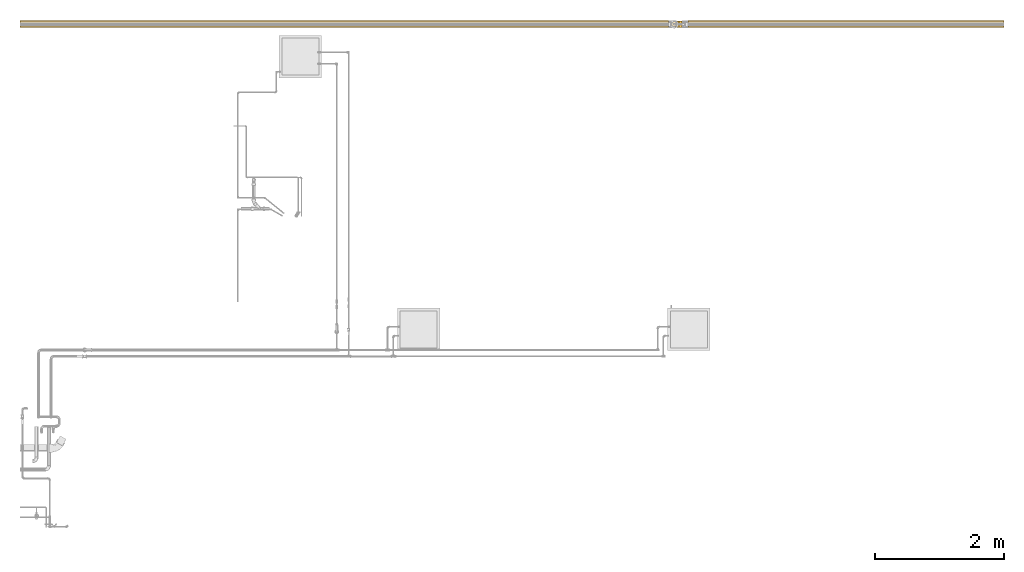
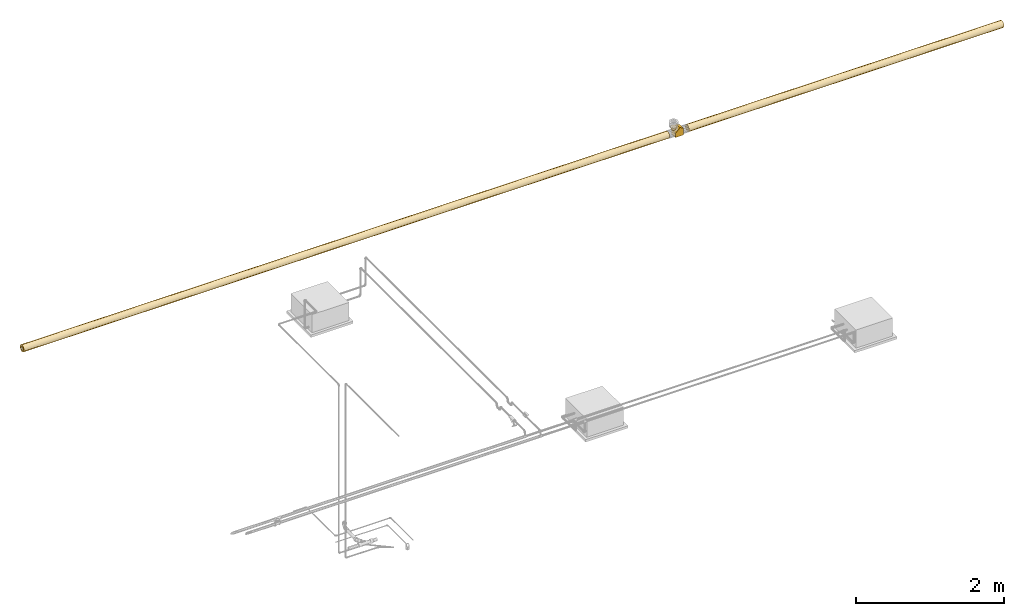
# One storey, part 2 of 35: 4 coverings.
"""IFC2X3 building model written with IfcOpenShell, lengths in millimetres."""

from ifc_helpers import new_model, entity, si_unit, converted_unit, derived_unit, direction, frame, origin_with_axes, place, context, subcontext, project, spatial, open_shell, faceted_brep, surface_model, source, transform, mapped, element, save


model = new_model("IFC2X3")

# Units and contexts
model_context = context("Model", 3, precision=0.01, world=frame((0.0, 4.29681676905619e-09, 0.0)), true_north=direction((4.01073788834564e-13, 1.0)))
plan_context = context("Plan", 3, precision=0.01, world=frame((0.0, 4.29681676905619e-09, 0.0)), true_north=direction((4.01073788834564e-13, 1.0)))
body_context = subcontext(model_context, "Body", "Model", "MODEL_VIEW")
ifc_project = project(units=[converted_unit("PLANEANGLEUNIT", "DEGREE", entity("IfcPositiveLengthMeasure", 0.0174532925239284), si_unit("PLANEANGLEUNIT", "RADIAN"), dimensions=[0, 0, 0, 0, 0, 0, 0]), si_unit("AREAUNIT", "SQUARE_METRE"), si_unit("LENGTHUNIT", "METRE", prefix="MILLI"), si_unit("MASSUNIT", "GRAM", prefix="KILO"), si_unit("POWERUNIT", "WATT"), si_unit("PRESSUREUNIT", "PASCAL"), si_unit("FORCEUNIT", "NEWTON", prefix="KILO"), si_unit("ELECTRICVOLTAGEUNIT", "VOLT"), si_unit("ELECTRICCURRENTUNIT", "AMPERE"), si_unit("THERMODYNAMICTEMPERATUREUNIT", "DEGREE_CELSIUS"), si_unit("TIMEUNIT", "SECOND"), si_unit("VOLUMEUNIT", "CUBIC_METRE"), derived_unit("LINEARVELOCITYUNIT", [(si_unit("LENGTHUNIT", "METRE"), 1), (si_unit("TIMEUNIT", "SECOND"), -1)]), derived_unit("VOLUMETRICFLOWRATEUNIT", [(si_unit("VOLUMEUNIT", "CUBIC_METRE"), 1), (si_unit("TIMEUNIT", "SECOND"), -1)]), derived_unit("THERMALTRANSMITTANCEUNIT", [(si_unit("POWERUNIT", "WATT"), 1), (si_unit("THERMODYNAMICTEMPERATUREUNIT", "KELVIN"), -1), (si_unit("AREAUNIT", "SQUARE_METRE"), -1)]), derived_unit("SOUNDPRESSUREUNIT", [(si_unit("PRESSUREUNIT", "PASCAL"), 1)])], contexts=[model_context, plan_context])

# Site, building, storey
site_placement = place(None, frame((0.0, -4.29681676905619e-09, 0.0), z_axis=(0.0, 0.0, 1.0), x_axis=(1.0, 0.0, 0.0)))
site = spatial("IfcSite", under=ifc_project, at=site_placement, Name="ENGM", CompositionType="ELEMENT")
building_placement = place(site_placement, frame((0.0, 4.29681676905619e-09, 0.0), z_axis=(0.0, 0.0, 1.0), x_axis=(1.0, 0.0, 0.0)))
building = spatial("IfcBuilding", under=site, at=building_placement, Name="TH", CompositionType="ELEMENT")
storey_placement = place(building_placement, frame((0.0, 0.0, 210200.0), z_axis=(0.0, 0.0, 1.0), x_axis=(1.0, 0.0, 0.0)))
storey = spatial("IfcBuildingStorey", under=building, at=storey_placement, Name="Nivå F - 0,7 m", CompositionType="ELEMENT", Elevation=210200.0)

# Coverings
shared_shape_1 = source(origin_with_axes(), body_context, "Body", "SurfaceModel", [
    surface_model("IfcShellBasedSurfaceModel", [(-13.71736, -88.38671, 51.0), (-13.71736, -88.38671, -51.0), (37.37437, -58.88945, -51.0), (37.37437, -58.88945, 51.0), (-88.42641, -13.67767, 51.0), (-88.42641, -13.67767, -51.0), (-88.42641, 51.0, -51.0), (-88.42641, 51.0, 51.0), (37.37437, 51.0, -51.0), (37.37437, 51.0, 51.0)], [open_shell([[[0, 1, 2]], [[2, 3, 0]], [[4, 5, 0]], [[1, 0, 5]], [[6, 5, 4]], [[4, 7, 6]], [[2, 1, 5]], [[5, 6, 8]], [[5, 8, 2]], [[0, 3, 4]], [[4, 9, 7]], [[9, 4, 3]], [[9, 3, 8]], [[2, 8, 3]], [[9, 8, 6]], [[6, 7, 9]]])]),
])
covering_1_placement = place(storey_placement, frame((905369.3147, 486361.4, 3085.00002000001), z_axis=(0.0, 1.0, 0.0), x_axis=(1.0, 0.0, 0.0)))
element("IfcCovering", 1, at=covering_1_placement, inside=storey, Name="BI20T - Cellegummi 13 mm kalde rør", PredefinedType="INSULATION", context=body_context, shape_type="MappedRepresentation", body=[
    mapped(shared_shape_1, transform((0.0, 0.0, 0.0), scale=1.0)),
])
shared_shape_2 = source(origin_with_axes(), body_context, "Body", "SurfaceModel", [
    surface_model("IfcShellBasedSurfaceModel", [(-14.33856, 34.84109, -22.64798), (-3.73357, 24.23609, -36.48423), (-9.64633, 30.14885, -30.50281), (3.03749, 17.46504, -40.22652), (22.9793, -2.47678, -37.3931), (33.19048, -12.68796, -25.88116), (28.54325, -8.04073, -32.45082), (-14.49747, 28.14035, -30.50198), (-14.49747, 34.77526, -22.64798), (-14.46432, 34.78186, -22.64798), (-9.33336, 1.02721, -41.5), (-14.49747, 0.0, -41.5), (-14.49747, 10.20222, -40.22642), (-13.22987, 30.45612, -28.37627), (-14.41147, 34.79237, -22.64798), (-12.89338, 25.57403, -32.7892), (-9.72662, 15.68713, -38.65283), (-14.49747, 19.77826, -36.48384), (-7.97404, 24.73896, -34.64887), (-14.36667, 34.8223, -22.64798), (-11.82183, 30.25391, -29.13674), (-6.95673, 7.96936, -40.91607), (-4.6842, 17.69479, -38.65305), (-10.74023, 24.81627, -33.75287), (10.25126, 10.25126, -41.5), (5.87334, 7.32603, -41.5), (-1.10355, 2.66422, -41.5), (-2.08252, 10.45793, -40.81731), (-14.49747, -40.08592, -10.74099), (0.14017, -38.58839, 0.0), (-14.49747, -41.5, 0.0), (4.31246, -26.52859, -29.35029), (-3.199, -22.40889, -34.19829), (7.71892, -17.57172, -35.14288), (-14.49747, -29.34493, -29.34493), (-1.14182, -32.88902, -23.52181), (18.78277, -20.06338, -29.35053), (-1.73312, -11.27783, -39.40935), (10.69373, -6.67948, -39.17315), (5.28207, -36.72744, -13.02003), (12.80245, -29.60362, -22.08583), (-14.49747, -35.94006, -20.75), (23.86555, -28.47712, -13.71224), (-14.49747, -20.75, -35.94006), (-14.49747, -10.74099, -40.08592), (-7.80051, 1.33211, -41.5), (18.14808, -11.81476, -35.14288), (14.77781, -35.67679, 0.0), (4.44593, 6.37226, -41.5), (16.7774, 3.72513, -40.46071), (25.61927, -22.52878, -22.08583), (26.90739, -27.57205, 0.0), (16.78439, 3.71814, 40.45845), (10.25126, 10.25126, 41.5), (4.44593, 6.37226, 41.5), (3.94387, -12.42183, 38.341), (-3.70515, -6.42629, 40.75867), (-6.05104, -14.40129, 38.6483), (5.84721, -3.2656, 40.6538), (-2.50022, -24.05732, 32.92416), (-14.49747, -29.34493, 29.34493), (-0.98345, -31.56623, 25.2636), (-14.49747, -20.75, 35.94006), (10.60404, -24.25288, 29.33934), (7.09378, -19.35447, 34.215), (-7.80051, 1.33211, 41.5), (-14.49747, -10.74099, 40.08592), (12.00006, -7.65858, 38.60899), (-14.49747, -35.94006, 20.75), (21.0178, -31.79942, 8.33777), (12.0841, -33.35439, 15.88136), (24.32911, -27.53874, 15.21287), (15.78155, -13.39394, 35.13497), (28.552, -8.04948, 32.44096), (22.98818, -2.48565, 37.38706), (-1.10355, 2.66422, 41.5), (10.87965, -29.92264, 22.75374), (22.71545, -24.45773, 22.07324), (22.33607, -17.76628, 29.33934), (-14.49747, 0.0, 41.5), (-2.08549, -37.59487, 15.11815), (-14.49747, -40.08592, 10.74099), (-14.49747, 10.20222, 40.22642), (-9.33336, 1.02721, 41.5), (-14.46432, 34.78186, 22.64798), (-14.49747, 34.77526, 22.64798), (-14.49747, 28.14035, 30.50198), (-7.04127, 8.2724, 40.86148), (-10.90615, 13.89671, 39.21061), (-11.89429, 24.46204, 33.75287), (-14.49747, 19.77826, 36.48384), (-4.60928, 19.44634, 38.04879), (3.03636, 17.46617, 40.22611), (-3.73458, 24.23711, 36.48345), (5.87334, 7.32603, 41.5), (-1.37939, 11.731, 40.66397), (-13.2883, 30.66556, 28.14243), (-9.14332, 25.55821, 33.75251), (-7.6116, 16.33633, 38.65283), (-9.64718, 30.14971, 30.5017), (-14.33856, 34.84109, 22.64798), (-14.36667, 34.8223, 22.64798), (-14.41147, 34.79237, 22.64798), (-12.29111, 30.63843, 28.55714), (33.19747, -12.69493, 25.86878), (36.69218, -16.18964, 18.00017), (38.86131, -18.35877, 9.22935), (38.85971, -18.35717, -9.23923), (39.59619, -19.09367, 0.0), (36.68791, -16.18537, -18.01272), (4.60161, -38.31167, 7.80901)], [open_shell([[[0, 1, 2]], [[1, 0, 3]], [[4, 5, 6]], [[7, 8, 9]], [[10, 11, 12]], [[9, 13, 7]], [[9, 14, 13]], [[15, 16, 17]], [[18, 2, 1]], [[19, 20, 14]], [[21, 12, 16]], [[7, 13, 15]], [[19, 2, 20]], [[18, 22, 23]], [[3, 24, 25]], [[23, 22, 16]], [[17, 16, 12]], [[26, 21, 27]], [[18, 23, 20]], [[3, 25, 27]], [[19, 0, 2]], [[21, 16, 27]], [[20, 23, 13]], [[10, 21, 26]], [[1, 3, 22]], [[2, 18, 20]], [[1, 22, 18]], [[20, 13, 14]], [[13, 23, 15]], [[16, 15, 23]], [[17, 7, 15]], [[12, 21, 10]], [[27, 16, 22]], [[3, 27, 22]], [[25, 26, 27]], [[28, 29, 30]], [[31, 32, 33]], [[34, 31, 35]], [[31, 33, 36]], [[37, 26, 38]], [[29, 28, 39]], [[31, 36, 40]], [[41, 35, 39]], [[40, 42, 39]], [[43, 44, 37]], [[37, 33, 32]], [[44, 45, 37]], [[41, 39, 28]], [[4, 6, 46]], [[4, 46, 38]], [[39, 47, 29]], [[38, 48, 49]], [[36, 46, 6]], [[6, 5, 36]], [[50, 36, 5]], [[37, 38, 33]], [[51, 47, 42]], [[46, 36, 33]], [[42, 40, 50]], [[48, 24, 49]], [[4, 38, 49]], [[47, 39, 42]], [[48, 38, 26]], [[38, 46, 33]], [[36, 50, 40]], [[35, 31, 40]], [[32, 34, 43]], [[39, 35, 40]], [[34, 35, 41]], [[34, 32, 31]], [[37, 32, 43]], [[45, 44, 11]], [[45, 26, 37]], [[52, 53, 54]], [[55, 56, 57]], [[52, 54, 58]], [[59, 60, 61]], [[60, 59, 62]], [[63, 64, 59]], [[65, 66, 56]], [[55, 67, 58]], [[68, 61, 60]], [[47, 51, 69]], [[70, 69, 71]], [[72, 73, 74]], [[56, 55, 58]], [[58, 67, 52]], [[58, 75, 56]], [[76, 63, 61]], [[54, 75, 58]], [[55, 72, 67]], [[70, 77, 76]], [[78, 72, 63]], [[57, 56, 66]], [[70, 71, 77]], [[65, 79, 66]], [[72, 74, 67]], [[72, 78, 73]], [[77, 78, 63]], [[64, 63, 72]], [[59, 64, 57]], [[61, 68, 80]], [[59, 61, 63]], [[66, 62, 57]], [[59, 57, 62]], [[80, 70, 76]], [[68, 81, 80]], [[56, 75, 65]], [[29, 81, 30]], [[52, 67, 74]], [[72, 55, 64]], [[57, 64, 55]], [[63, 76, 77]], [[80, 76, 61]], [[82, 79, 83]], [[84, 85, 86]], [[83, 87, 82]], [[83, 75, 87]], [[88, 89, 90]], [[91, 92, 93]], [[94, 95, 75]], [[96, 86, 89]], [[82, 87, 88]], [[94, 92, 95]], [[91, 97, 98]], [[99, 100, 101]], [[98, 97, 89]], [[90, 89, 86]], [[102, 96, 103]], [[91, 98, 95]], [[99, 101, 103]], [[94, 53, 92]], [[96, 89, 103]], [[95, 98, 87]], [[84, 96, 102]], [[93, 99, 97]], [[92, 91, 95]], [[93, 97, 91]], [[95, 87, 75]], [[87, 98, 88]], [[89, 88, 98]], [[90, 82, 88]], [[86, 96, 84]], [[103, 89, 97]], [[99, 103, 97]], [[101, 102, 103]], [[0, 100, 99]], [[0, 93, 92]], [[52, 74, 73]], [[104, 105, 106]], [[107, 108, 51]], [[42, 107, 51]], [[109, 50, 5]], [[109, 107, 42]], [[42, 50, 109]], [[78, 77, 104]], [[81, 29, 110]], [[81, 110, 80]], [[110, 47, 69]], [[51, 106, 69]], [[77, 105, 104]], [[51, 108, 106]], [[73, 78, 104]], [[69, 70, 110]], [[71, 106, 105]], [[80, 110, 70]], [[29, 47, 110]], [[106, 71, 69]], [[105, 77, 71]], [[93, 0, 99]], [[92, 52, 0]], [[3, 49, 24]], [[49, 3, 0]], [[49, 0, 5]], [[52, 92, 53]], [[52, 73, 104]], [[106, 0, 104]], [[106, 5, 0]], [[49, 5, 4]], [[5, 107, 109]], [[106, 107, 5]], [[106, 108, 107]], [[52, 104, 0]]])]),
])
covering_2_placement = place(storey_placement, frame((905283.35126, 486361.4, 3170.96346), z_axis=(0.000477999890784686, 0.999999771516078, 0.000477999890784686), x_axis=(-0.707106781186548, 0.0, 0.707106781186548)))
element("IfcCovering", 2, at=covering_2_placement, inside=storey, Name="BI20T - Cellegummi 13 mm kalde rør", PredefinedType="INSULATION", context=body_context, shape_type="MappedRepresentation", body=[
    mapped(shared_shape_2, transform((0.0, 0.0, 0.0), scale=1.0)),
])
covering_3_placement = place(storey_placement, frame((893206.46324, 486361.4, 3085.00002000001), z_axis=(0.0, 0.0, 1.0), x_axis=(1.0, 0.0, 0.0)))
element("IfcCovering", 3, at=covering_3_placement, inside=storey, Name="BI20T - Cellegummi 13 mm kalde rør", PredefinedType="INSULATION", context=body_context, shape_type="Brep", body=[
    faceted_brep([(1905.4429285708, 28.559424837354, -5.03579715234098), (1905.4429285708, 29.0, 0.0), (11985.8, 29.0, 0.0), (11985.8, 28.559424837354, -5.03579715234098), (1905.4429285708, 27.2510860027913, -9.91858415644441), (11985.8, 27.2510860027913, -9.91858415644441), (1905.4429285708, 25.1147367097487, -14.5), (11985.8, 25.1147367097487, -14.5), (1905.4429285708, 22.2152888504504, -18.6408406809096), (11985.8, 22.2152888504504, -18.6408406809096), (1905.4429285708, 18.6408406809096, -22.2152888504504), (11985.8, 18.6408406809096, -22.2152888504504), (1905.4429285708, 14.5, -25.1147367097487), (11985.8, 14.5, -25.1147367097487), (1905.4429285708, 9.91858415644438, -27.2510860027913), (11985.8, 9.91858415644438, -27.2510860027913), (1905.4429285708, 5.03579715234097, -28.559424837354), (11985.8, 5.03579715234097, -28.559424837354), (1905.4429285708, -5.32721357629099e-15, -29.0), (11985.8, -5.32721357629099e-15, -29.0), (1905.4429285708, -5.03579715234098, -28.559424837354), (11985.8, -5.03579715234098, -28.559424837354), (1905.4429285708, -9.91858415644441, -27.2510860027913), (11985.8, -9.91858415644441, -27.2510860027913), (1905.4429285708, -14.5, -25.1147367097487), (11985.8, -14.5, -25.1147367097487), (1905.4429285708, -18.6408406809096, -22.2152888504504), (11985.8, -18.6408406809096, -22.2152888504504), (1905.4429285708, -22.2152888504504, -18.6408406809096), (11985.8, -22.2152888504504, -18.6408406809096), (1905.4429285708, -25.1147367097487, -14.5), (11985.8, -25.1147367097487, -14.5), (1905.4429285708, -27.2510860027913, -9.91858415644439), (11985.8, -27.2510860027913, -9.91858415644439), (1905.4429285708, -28.559424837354, -5.03579715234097), (11985.8, -28.559424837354, -5.03579715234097), (1905.4429285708, -29.0, 3.55147571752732e-15), (11985.8, -29.0, 3.55147571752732e-15), (1905.4429285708, -28.559424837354, 5.03579715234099), (11985.8, -28.559424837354, 5.03579715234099), (1905.4429285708, -27.2510860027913, 9.9185841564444), (11985.8, -27.2510860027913, 9.9185841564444), (1905.4429285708, -25.1147367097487, 14.5), (11985.8, -25.1147367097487, 14.5), (1905.4429285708, -22.2152888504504, 18.6408406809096), (11985.8, -22.2152888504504, 18.6408406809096), (1905.4429285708, -18.6408406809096, 22.2152888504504), (11985.8, -18.6408406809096, 22.2152888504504), (1905.4429285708, -14.5, 25.1147367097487), (11985.8, -14.5, 25.1147367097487), (1905.4429285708, -9.91858415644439, 27.2510860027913), (11985.8, -9.91858415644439, 27.2510860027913), (1905.4429285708, -5.03579715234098, 28.559424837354), (11985.8, -5.03579715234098, 28.559424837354), (1905.4429285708, 1.77573785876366e-15, 29.0), (11985.8, 1.77573785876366e-15, 29.0), (1905.4429285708, 5.03579715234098, 28.559424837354), (11985.8, 5.03579715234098, 28.559424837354), (1905.4429285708, 9.9185841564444, 27.2510860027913), (11985.8, 9.9185841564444, 27.2510860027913), (1905.4429285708, 14.5, 25.1147367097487), (11985.8, 14.5, 25.1147367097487), (1905.4429285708, 18.6408406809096, 22.2152888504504), (11985.8, 18.6408406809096, 22.2152888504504), (1905.4429285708, 22.2152888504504, 18.6408406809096), (11985.8, 22.2152888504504, 18.6408406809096), (1905.4429285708, 25.1147367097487, 14.5), (11985.8, 25.1147367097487, 14.5), (1905.4429285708, 27.2510860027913, 9.91858415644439), (11985.8, 27.2510860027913, 9.91858415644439), (1905.4429285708, 28.559424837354, 5.03579715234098), (11985.8, 28.559424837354, 5.03579715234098), (1905.4429285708, 54.0, 0.0), (1905.4429285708, 53.1796186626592, -9.37700159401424), (11985.8, 53.1796186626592, -9.37700159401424), (11985.8, 54.0, 0.0), (1905.4429285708, 53.1796186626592, 9.37700159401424), (11985.8, 53.1796186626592, 9.37700159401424), (1905.4429285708, 50.7434015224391, 18.4690877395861), (11985.8, 50.7434015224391, 18.4690877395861), (1905.4429285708, 46.7653718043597, 27.0), (11985.8, 46.7653718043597, 27.0), (1905.4429285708, 41.3663999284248, 34.7105309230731), (11985.8, 41.3663999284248, 34.7105309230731), (1905.4429285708, 34.7105309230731, 41.3663999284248), (11985.8, 34.7105309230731, 41.3663999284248), (1905.4429285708, 27.0, 46.7653718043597), (11985.8, 27.0, 46.7653718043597), (1905.4429285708, 18.4690877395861, 50.7434015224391), (11985.8, 18.4690877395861, 50.7434015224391), (1905.4429285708, 9.37700159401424, 53.1796186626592), (11985.8, 9.37700159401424, 53.1796186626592), (1905.4429285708, 3.30654635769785e-15, 54.0), (11985.8, 3.30654635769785e-15, 54.0), (1905.4429285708, -9.37700159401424, 53.1796186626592), (11985.8, -9.37700159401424, 53.1796186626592), (1905.4429285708, -18.4690877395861, 50.7434015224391), (11985.8, -18.4690877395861, 50.7434015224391), (1905.4429285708, -27.0, 46.7653718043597), (11985.8, -27.0, 46.7653718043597), (1905.4429285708, -34.7105309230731, 41.3663999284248), (11985.8, -34.7105309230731, 41.3663999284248), (1905.4429285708, -41.3663999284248, 34.7105309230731), (11985.8, -41.3663999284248, 34.7105309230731), (1905.4429285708, -46.7653718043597, 27.0), (11985.8, -46.7653718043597, 27.0), (1905.4429285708, -50.7434015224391, 18.4690877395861), (11985.8, -50.7434015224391, 18.4690877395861), (1905.4429285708, -53.1796186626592, 9.37700159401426), (11985.8, -53.1796186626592, 9.37700159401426), (1905.4429285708, -54.0, 6.61309271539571e-15), (11985.8, -54.0, 6.61309271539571e-15), (1905.4429285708, -53.1796186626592, -9.37700159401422), (11985.8, -53.1796186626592, -9.37700159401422), (1905.4429285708, -50.7434015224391, -18.4690877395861), (11985.8, -50.7434015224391, -18.4690877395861), (1905.4429285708, -46.7653718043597, -27.0), (11985.8, -46.7653718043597, -27.0), (1905.4429285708, -41.3663999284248, -34.7105309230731), (11985.8, -41.3663999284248, -34.7105309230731), (1905.4429285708, -34.7105309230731, -41.3663999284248), (11985.8, -34.7105309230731, -41.3663999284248), (1905.4429285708, -27.0, -46.7653718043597), (11985.8, -27.0, -46.7653718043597), (1905.4429285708, -18.4690877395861, -50.743401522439), (11985.8, -18.4690877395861, -50.743401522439), (1905.4429285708, -9.37700159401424, -53.1796186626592), (11985.8, -9.37700159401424, -53.1796186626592), (1905.4429285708, -9.91963907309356e-15, -54.0), (11985.8, -9.91963907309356e-15, -54.0), (1905.4429285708, 9.37700159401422, -53.1796186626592), (11985.8, 9.37700159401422, -53.1796186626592), (1905.4429285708, 18.4690877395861, -50.7434015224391), (11985.8, 18.4690877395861, -50.7434015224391), (1905.4429285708, 27.0, -46.7653718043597), (11985.8, 27.0, -46.7653718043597), (1905.4429285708, 34.7105309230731, -41.3663999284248), (11985.8, 34.7105309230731, -41.3663999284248), (1905.4429285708, 41.3663999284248, -34.7105309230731), (11985.8, 41.3663999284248, -34.7105309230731), (1905.4429285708, 46.7653718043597, -27.0), (11985.8, 46.7653718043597, -27.0), (1905.4429285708, 50.743401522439, -18.4690877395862), (11985.8, 50.743401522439, -18.4690877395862)], [[[0, 1, 2, 3]], [[4, 0, 3, 5]], [[6, 4, 5, 7]], [[8, 6, 7, 9]], [[10, 8, 9, 11]], [[12, 10, 11, 13]], [[14, 12, 13, 15]], [[16, 14, 15, 17]], [[18, 16, 17, 19]], [[20, 18, 19, 21]], [[22, 20, 21, 23]], [[24, 22, 23, 25]], [[26, 24, 25, 27]], [[28, 26, 27, 29]], [[30, 28, 29, 31]], [[32, 30, 31, 33]], [[34, 32, 33, 35]], [[36, 34, 35, 37]], [[38, 36, 37, 39]], [[40, 38, 39, 41]], [[42, 40, 41, 43]], [[44, 42, 43, 45]], [[46, 44, 45, 47]], [[48, 46, 47, 49]], [[50, 48, 49, 51]], [[52, 50, 51, 53]], [[54, 52, 53, 55]], [[56, 54, 55, 57]], [[58, 56, 57, 59]], [[60, 58, 59, 61]], [[62, 60, 61, 63]], [[64, 62, 63, 65]], [[66, 64, 65, 67]], [[68, 66, 67, 69]], [[70, 68, 69, 71]], [[1, 70, 71, 2]], [[72, 73, 74, 75]], [[76, 72, 75, 77]], [[78, 76, 77, 79]], [[80, 78, 79, 81]], [[82, 80, 81, 83]], [[84, 82, 83, 85]], [[86, 84, 85, 87]], [[88, 86, 87, 89]], [[90, 88, 89, 91]], [[92, 90, 91, 93]], [[94, 92, 93, 95]], [[96, 94, 95, 97]], [[98, 96, 97, 99]], [[100, 98, 99, 101]], [[102, 100, 101, 103]], [[104, 102, 103, 105]], [[106, 104, 105, 107]], [[108, 106, 107, 109]], [[110, 108, 109, 111]], [[112, 110, 111, 113]], [[114, 112, 113, 115]], [[116, 114, 115, 117]], [[118, 116, 117, 119]], [[120, 118, 119, 121]], [[122, 120, 121, 123]], [[124, 122, 123, 125]], [[126, 124, 125, 127]], [[128, 126, 127, 129]], [[130, 128, 129, 131]], [[132, 130, 131, 133]], [[134, 132, 133, 135]], [[136, 134, 135, 137]], [[138, 136, 137, 139]], [[140, 138, 139, 141]], [[142, 140, 141, 143]], [[73, 142, 143, 74]], [[75, 74, 143, 141, 139, 137, 135, 133, 131, 129, 127, 125, 123, 121, 119, 117, 115, 113, 111, 109, 107, 105, 103, 101, 99, 97, 95, 93, 91, 89, 87, 85, 83, 81, 79, 77], [2, 71, 69, 67, 65, 63, 61, 59, 57, 55, 53, 51, 49, 47, 45, 43, 41, 39, 37, 35, 33, 31, 29, 27, 25, 23, 21, 19, 17, 15, 13, 11, 9, 7, 5, 3]], [[76, 78, 80, 82, 84, 86, 88, 90, 92, 94, 96, 98, 100, 102, 104, 106, 108, 110, 112, 114, 116, 118, 120, 122, 124, 126, 128, 130, 132, 134, 136, 138, 140, 142, 73, 72], [4, 6, 8, 10, 12, 14, 16, 18, 20, 22, 24, 26, 28, 30, 32, 34, 36, 38, 40, 42, 44, 46, 48, 50, 52, 54, 56, 58, 60, 62, 64, 66, 68, 70, 1, 0]]], orient=[[False], [False], [False], [False], [False], [False], [False], [False], [False], [False], [False], [False], [False], [False], [False], [False], [False], [False], [False], [False], [False], [False], [False], [False], [False], [False], [False], [False], [False], [False], [False], [False], [False], [False], [False], [False], [False], [False], [False], [False], [False], [False], [False], [False], [False], [False], [False], [False], [False], [False], [False], [False], [False], [False], [False], [False], [False], [False], [False], [False], [False], [False], [False], [False], [False], [False], [False], [False], [False], [False], [False], [False], [False, False], [False, False]]),
])
covering_4_placement = place(storey_placement, frame((905495.28907, 486361.4, 3085.00002000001), z_axis=(0.0, 0.0, 1.0), x_axis=(1.0, 0.0, 0.0)))
element("IfcCovering", 4, at=covering_4_placement, inside=storey, Name="BI20T - Cellegummi 13 mm kalde rør", PredefinedType="INSULATION", context=body_context, shape_type="Brep", body=[
    faceted_brep([(4915.29577179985, 29.0, 0.0), (4915.29577179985, 28.559424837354, -5.03579715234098), (0.0, 28.559424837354, -5.03579715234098), (0.0, 29.0, 0.0), (4915.29577179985, 27.2510860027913, -9.91858415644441), (0.0, 27.2510860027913, -9.91858415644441), (4915.29577179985, 25.1147367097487, -14.5), (0.0, 25.1147367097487, -14.5), (4915.29577179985, 22.2152888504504, -18.6408406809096), (0.0, 22.2152888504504, -18.6408406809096), (4915.29577179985, 18.6408406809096, -22.2152888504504), (0.0, 18.6408406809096, -22.2152888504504), (4915.29577179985, 14.5, -25.1147367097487), (0.0, 14.5, -25.1147367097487), (4915.29577179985, 9.91858415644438, -27.2510860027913), (0.0, 9.91858415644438, -27.2510860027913), (4915.29577179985, 5.03579715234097, -28.559424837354), (0.0, 5.03579715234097, -28.559424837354), (4915.29577179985, -5.32721357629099e-15, -29.0), (0.0, -5.32721357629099e-15, -29.0), (4915.29577179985, -5.03579715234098, -28.559424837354), (0.0, -5.03579715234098, -28.559424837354), (4915.29577179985, -9.91858415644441, -27.2510860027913), (0.0, -9.91858415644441, -27.2510860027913), (4915.29577179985, -14.5, -25.1147367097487), (0.0, -14.5, -25.1147367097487), (4915.29577179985, -18.6408406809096, -22.2152888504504), (0.0, -18.6408406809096, -22.2152888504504), (4915.29577179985, -22.2152888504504, -18.6408406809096), (0.0, -22.2152888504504, -18.6408406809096), (4915.29577179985, -25.1147367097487, -14.5), (0.0, -25.1147367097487, -14.5), (4915.29577179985, -27.2510860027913, -9.91858415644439), (0.0, -27.2510860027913, -9.91858415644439), (4915.29577179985, -28.559424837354, -5.03579715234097), (0.0, -28.559424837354, -5.03579715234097), (4915.29577179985, -29.0, 3.55147571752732e-15), (0.0, -29.0, 3.55147571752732e-15), (4915.29577179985, -28.559424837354, 5.03579715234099), (0.0, -28.559424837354, 5.03579715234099), (4915.29577179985, -27.2510860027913, 9.9185841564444), (0.0, -27.2510860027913, 9.9185841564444), (4915.29577179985, -25.1147367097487, 14.5), (0.0, -25.1147367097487, 14.5), (4915.29577179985, -22.2152888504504, 18.6408406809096), (0.0, -22.2152888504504, 18.6408406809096), (4915.29577179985, -18.6408406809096, 22.2152888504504), (0.0, -18.6408406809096, 22.2152888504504), (4915.29577179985, -14.5, 25.1147367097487), (0.0, -14.5, 25.1147367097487), (4915.29577179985, -9.91858415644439, 27.2510860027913), (0.0, -9.91858415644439, 27.2510860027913), (4915.29577179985, -5.03579715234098, 28.559424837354), (0.0, -5.03579715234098, 28.559424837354), (4915.29577179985, 1.77573785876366e-15, 29.0), (0.0, 1.77573785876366e-15, 29.0), (4915.29577179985, 5.03579715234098, 28.559424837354), (0.0, 5.03579715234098, 28.559424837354), (4915.29577179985, 9.9185841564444, 27.2510860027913), (0.0, 9.9185841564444, 27.2510860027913), (4915.29577179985, 14.5, 25.1147367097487), (0.0, 14.5, 25.1147367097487), (4915.29577179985, 18.6408406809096, 22.2152888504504), (0.0, 18.6408406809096, 22.2152888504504), (4915.29577179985, 22.2152888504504, 18.6408406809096), (0.0, 22.2152888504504, 18.6408406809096), (4915.29577179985, 25.1147367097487, 14.5), (0.0, 25.1147367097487, 14.5), (4915.29577179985, 27.2510860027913, 9.91858415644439), (0.0, 27.2510860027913, 9.91858415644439), (4915.29577179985, 28.559424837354, 5.03579715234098), (0.0, 28.559424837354, 5.03579715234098), (4915.29577179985, 53.1796186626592, -9.37700159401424), (4915.29577179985, 54.0, 0.0), (0.0, 54.0, 0.0), (0.0, 53.1796186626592, -9.37700159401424), (4915.29577179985, 53.1796186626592, 9.37700159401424), (0.0, 53.1796186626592, 9.37700159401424), (4915.29577179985, 50.7434015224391, 18.4690877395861), (0.0, 50.7434015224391, 18.4690877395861), (4915.29577179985, 46.7653718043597, 27.0), (0.0, 46.7653718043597, 27.0), (4915.29577179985, 41.3663999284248, 34.7105309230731), (0.0, 41.3663999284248, 34.7105309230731), (4915.29577179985, 34.7105309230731, 41.3663999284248), (0.0, 34.7105309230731, 41.3663999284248), (4915.29577179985, 27.0, 46.7653718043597), (0.0, 27.0, 46.7653718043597), (4915.29577179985, 18.4690877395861, 50.7434015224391), (0.0, 18.4690877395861, 50.7434015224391), (4915.29577179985, 9.37700159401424, 53.1796186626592), (0.0, 9.37700159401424, 53.1796186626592), (4915.29577179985, 3.30654635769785e-15, 54.0), (0.0, 3.30654635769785e-15, 54.0), (4915.29577179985, -9.37700159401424, 53.1796186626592), (0.0, -9.37700159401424, 53.1796186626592), (4915.29577179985, -18.4690877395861, 50.7434015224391), (0.0, -18.4690877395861, 50.7434015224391), (4915.29577179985, -27.0, 46.7653718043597), (0.0, -27.0, 46.7653718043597), (4915.29577179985, -34.7105309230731, 41.3663999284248), (0.0, -34.7105309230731, 41.3663999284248), (4915.29577179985, -41.3663999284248, 34.7105309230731), (0.0, -41.3663999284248, 34.7105309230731), (4915.29577179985, -46.7653718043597, 27.0), (0.0, -46.7653718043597, 27.0), (4915.29577179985, -50.7434015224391, 18.4690877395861), (0.0, -50.7434015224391, 18.4690877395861), (4915.29577179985, -53.1796186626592, 9.37700159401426), (0.0, -53.1796186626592, 9.37700159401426), (4915.29577179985, -54.0, 6.61309271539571e-15), (0.0, -54.0, 6.61309271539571e-15), (4915.29577179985, -53.1796186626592, -9.37700159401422), (0.0, -53.1796186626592, -9.37700159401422), (4915.29577179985, -50.7434015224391, -18.4690877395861), (0.0, -50.7434015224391, -18.4690877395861), (4915.29577179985, -46.7653718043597, -27.0), (0.0, -46.7653718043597, -27.0), (4915.29577179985, -41.3663999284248, -34.7105309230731), (0.0, -41.3663999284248, -34.7105309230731), (4915.29577179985, -34.7105309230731, -41.3663999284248), (0.0, -34.7105309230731, -41.3663999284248), (4915.29577179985, -27.0, -46.7653718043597), (0.0, -27.0, -46.7653718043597), (4915.29577179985, -18.4690877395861, -50.743401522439), (0.0, -18.4690877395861, -50.743401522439), (4915.29577179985, -9.37700159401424, -53.1796186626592), (0.0, -9.37700159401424, -53.1796186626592), (4915.29577179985, -9.91963907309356e-15, -54.0), (0.0, -9.91963907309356e-15, -54.0), (4915.29577179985, 9.37700159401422, -53.1796186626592), (0.0, 9.37700159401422, -53.1796186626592), (4915.29577179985, 18.4690877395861, -50.7434015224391), (0.0, 18.4690877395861, -50.7434015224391), (4915.29577179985, 27.0, -46.7653718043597), (0.0, 27.0, -46.7653718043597), (4915.29577179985, 34.7105309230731, -41.3663999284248), (0.0, 34.7105309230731, -41.3663999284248), (4915.29577179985, 41.3663999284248, -34.7105309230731), (0.0, 41.3663999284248, -34.7105309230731), (4915.29577179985, 46.7653718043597, -27.0), (0.0, 46.7653718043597, -27.0), (4915.29577179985, 50.743401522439, -18.4690877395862), (0.0, 50.743401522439, -18.4690877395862)], [[[0, 1, 2, 3]], [[1, 4, 5, 2]], [[4, 6, 7, 5]], [[6, 8, 9, 7]], [[8, 10, 11, 9]], [[10, 12, 13, 11]], [[12, 14, 15, 13]], [[14, 16, 17, 15]], [[16, 18, 19, 17]], [[18, 20, 21, 19]], [[20, 22, 23, 21]], [[22, 24, 25, 23]], [[24, 26, 27, 25]], [[26, 28, 29, 27]], [[28, 30, 31, 29]], [[30, 32, 33, 31]], [[32, 34, 35, 33]], [[34, 36, 37, 35]], [[36, 38, 39, 37]], [[38, 40, 41, 39]], [[40, 42, 43, 41]], [[42, 44, 45, 43]], [[44, 46, 47, 45]], [[46, 48, 49, 47]], [[48, 50, 51, 49]], [[50, 52, 53, 51]], [[52, 54, 55, 53]], [[54, 56, 57, 55]], [[56, 58, 59, 57]], [[58, 60, 61, 59]], [[60, 62, 63, 61]], [[62, 64, 65, 63]], [[64, 66, 67, 65]], [[66, 68, 69, 67]], [[68, 70, 71, 69]], [[70, 0, 3, 71]], [[72, 73, 74, 75]], [[73, 76, 77, 74]], [[76, 78, 79, 77]], [[78, 80, 81, 79]], [[80, 82, 83, 81]], [[82, 84, 85, 83]], [[84, 86, 87, 85]], [[86, 88, 89, 87]], [[88, 90, 91, 89]], [[90, 92, 93, 91]], [[92, 94, 95, 93]], [[94, 96, 97, 95]], [[96, 98, 99, 97]], [[98, 100, 101, 99]], [[100, 102, 103, 101]], [[102, 104, 105, 103]], [[104, 106, 107, 105]], [[106, 108, 109, 107]], [[108, 110, 111, 109]], [[110, 112, 113, 111]], [[112, 114, 115, 113]], [[114, 116, 117, 115]], [[116, 118, 119, 117]], [[118, 120, 121, 119]], [[120, 122, 123, 121]], [[122, 124, 125, 123]], [[124, 126, 127, 125]], [[126, 128, 129, 127]], [[128, 130, 131, 129]], [[130, 132, 133, 131]], [[132, 134, 135, 133]], [[134, 136, 137, 135]], [[136, 138, 139, 137]], [[138, 140, 141, 139]], [[140, 142, 143, 141]], [[142, 72, 75, 143]], [[75, 74, 77, 79, 81, 83, 85, 87, 89, 91, 93, 95, 97, 99, 101, 103, 105, 107, 109, 111, 113, 115, 117, 119, 121, 123, 125, 127, 129, 131, 133, 135, 137, 139, 141, 143], [3, 2, 5, 7, 9, 11, 13, 15, 17, 19, 21, 23, 25, 27, 29, 31, 33, 35, 37, 39, 41, 43, 45, 47, 49, 51, 53, 55, 57, 59, 61, 63, 65, 67, 69, 71]], [[142, 140, 138, 136, 134, 132, 130, 128, 126, 124, 122, 120, 118, 116, 114, 112, 110, 108, 106, 104, 102, 100, 98, 96, 94, 92, 90, 88, 86, 84, 82, 80, 78, 76, 73, 72], [70, 68, 66, 64, 62, 60, 58, 56, 54, 52, 50, 48, 46, 44, 42, 40, 38, 36, 34, 32, 30, 28, 26, 24, 22, 20, 18, 16, 14, 12, 10, 8, 6, 4, 1, 0]]], orient=[[False], [False], [False], [False], [False], [False], [False], [False], [False], [False], [False], [False], [False], [False], [False], [False], [False], [False], [False], [False], [False], [False], [False], [False], [False], [False], [False], [False], [False], [False], [False], [False], [False], [False], [False], [False], [False], [False], [False], [False], [False], [False], [False], [False], [False], [False], [False], [False], [False], [False], [False], [False], [False], [False], [False], [False], [False], [False], [False], [False], [False], [False], [False], [False], [False], [False], [False], [False], [False], [False], [False], [False], [False, False], [False, False]]),
])

save(model, "model.ifc")
